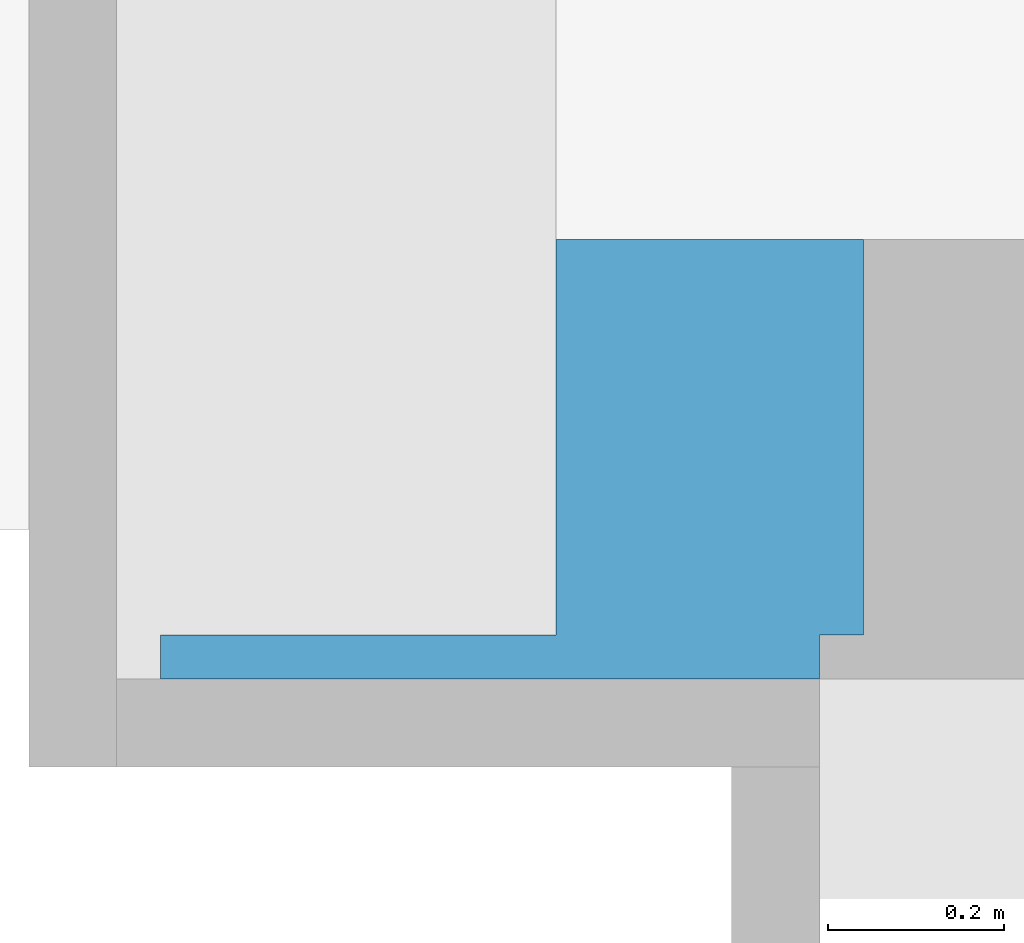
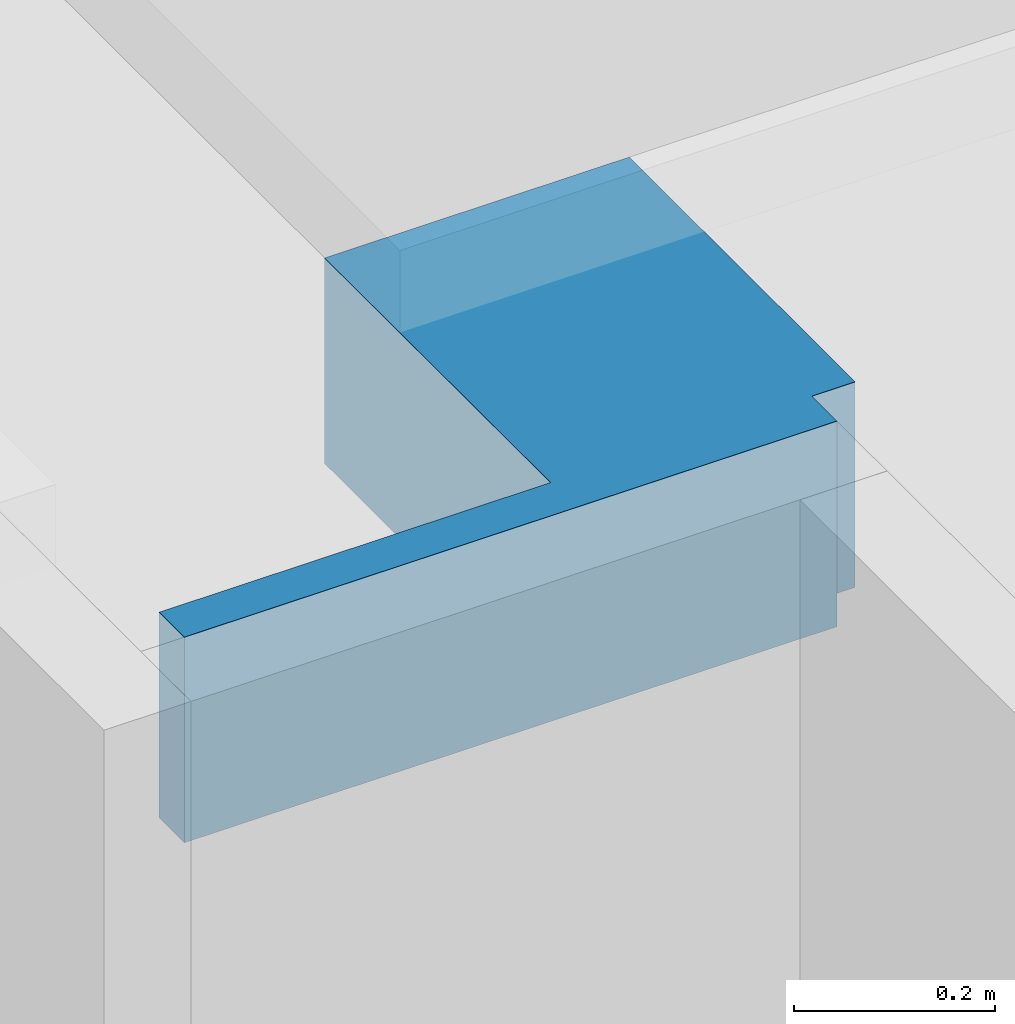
# One storey, part 12 of 27: 1 wall.
"""IFC4 building model written with IfcOpenShell, lengths in metres."""

from ifc_helpers import new_model, entity, si_unit, converted_unit, derived_unit, frame, origin, place, context, subcontext, project, spatial, polyline, outline, extrude, material, layer, layer_set, layer_usage, element, save


model = new_model("IFC4")

# Units and contexts
model_context = context("Model", 3, precision=1e-05, world=origin())
body_context = subcontext(model_context, "Body", "Model", "MODEL_VIEW")
ifc_project = project(units=[si_unit("LENGTHUNIT", "METRE"), si_unit("AREAUNIT", "SQUARE_METRE"), si_unit("VOLUMEUNIT", "CUBIC_METRE"), si_unit("MASSUNIT", "GRAM", prefix="KILO"), converted_unit("PLANEANGLEUNIT", "DEGREE", entity("IfcPlaneAngleMeasure", 0.0174532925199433), si_unit("PLANEANGLEUNIT", "RADIAN"), dimensions=[0, 0, 0, 0, 0, 0, 0]), derived_unit("THERMALTRANSMITTANCEUNIT", [(si_unit("POWERUNIT", "WATT"), 1), (si_unit("THERMODYNAMICTEMPERATUREUNIT", "KELVIN"), -1), (si_unit("LENGTHUNIT", "METRE"), -2)]), derived_unit("VOLUMETRICFLOWRATEUNIT", [(si_unit("LENGTHUNIT", "METRE"), 3), (converted_unit("TIMEUNIT", "hour", entity("IfcTimeMeasure", 3600.0), si_unit("TIMEUNIT", "SECOND"), dimensions=[0, 0, 1, 0, 0, 0, 0]), -1), (si_unit("LENGTHUNIT", "METRE"), -1)])], contexts=[model_context])

# Site, building, storey
site_placement = place(None, origin())
site = spatial("IfcSite", under=ifc_project, at=site_placement, Name="3. ASŘ", CompositionType="ELEMENT")
building_placement = place(site_placement, origin())
building = spatial("IfcBuilding", under=site, at=building_placement, Name="Pavilon C", CompositionType="ELEMENT")
storey_placement = place(building_placement, frame((0.0, 0.0, 10.5)))
storey = spatial("IfcBuildingStorey", under=building, at=storey_placement, Name="Půdorys 4.NP", CompositionType="ELEMENT", Elevation=10.5)

# Wall
ifc_material_1 = material(Name="ZELEZOBETONOVÁ KCE")
ifc_layer_1 = layer(ifc_material_1, 0.45)
ifc_material_2 = material(Name="LIGNOPOR")
ifc_layer_2 = layer(ifc_material_2, 0.05)
ifc_layer_set = layer_set([ifc_layer_1, ifc_layer_2])
ifc_layer_usage = layer_usage(ifc_layer_set, "AXIS2", "POSITIVE", 0.0)
wall_placement = place(storey_placement, frame((-9.52499999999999, 7.95, 2.15), z_axis=(0.0, 0.0, 1.0), x_axis=(-1.0, 0.0, 0.0)))
element("IfcWall", 1, at=wall_placement, inside=storey, material=ifc_layer_usage, context=body_context, shape_type="SweptSolid", body=[
    extrude(outline(polyline([(-0.799999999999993, -0.5), (-0.45, -0.5), (-0.45, -0.05), (0.0, -0.05), (0.0, 0.0), (-0.75, 0.0), (-0.75, -0.05), (-0.799999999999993, -0.05), (-0.799999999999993, -0.5)])), frame((0.799999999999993, 0.5, 0.0), z_axis=(0.0, 0.0, 1.0), x_axis=(1.0, 0.0, 0.0)), (0.0, 0.0, 1.0), 0.25),
])

save(model, "model.ifc")
